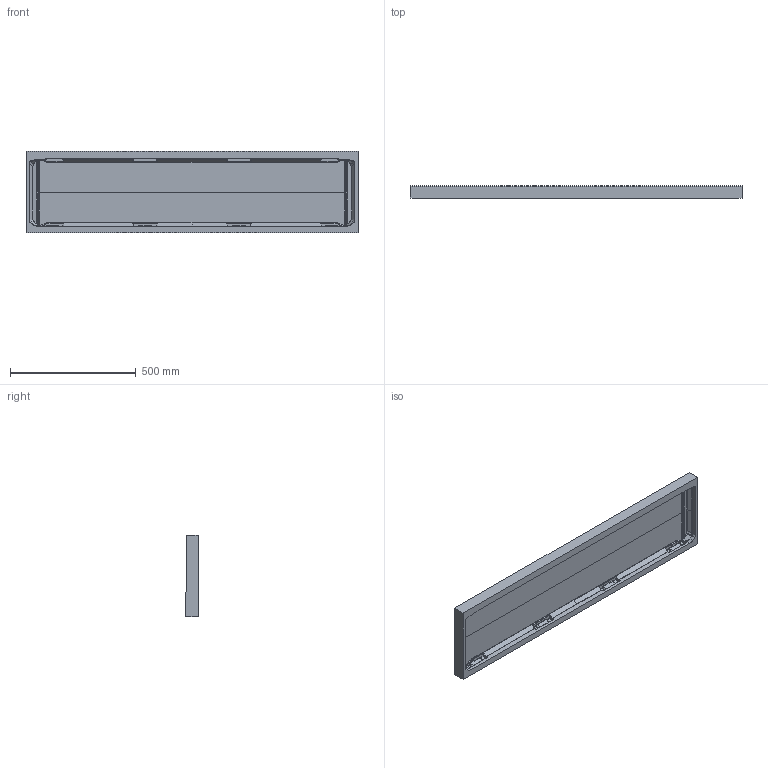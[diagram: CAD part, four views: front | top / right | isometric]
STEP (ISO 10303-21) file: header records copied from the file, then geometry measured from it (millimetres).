
FILE_DESCRIPTION (( 'STEP AP214' ), '1' );
FILE_NAME ('V770 PP TOP TUB 2-5-2024.STEP', '2024-02-14T18:37:57', ( '' ), ( '' ), 'SwSTEP 2.0', 'SolidWorks 2021', '' );
FILE_SCHEMA (( 'AUTOMOTIVE_DESIGN' ));
Length unit declared in the file: millimetre
Products named in the file (1): V770 PP TOP TUB 2-5-2024
Bounding box: 1321.38 x 49.31 x 324.73 mm (x, y, z)
Volume: 8130543.8 mm3; surface area: 1123541.7 mm2
Topology: 1 solids, 1 shells, 805 faces, 1917 edges, 1087 vertices
Faces by surface type: bspline 697, plane 108
Entity records: 30918 total; most frequent: CARTESIAN_POINT 18869, ORIENTED_EDGE 3778, EDGE_CURVE 1889, VERTEX_POINT 1087, EDGE_LOOP 806, ADVANCED_FACE 805, FACE_OUTER_BOUND 805, B_SPLINE_CURVE_WITH_KNOTS 764
